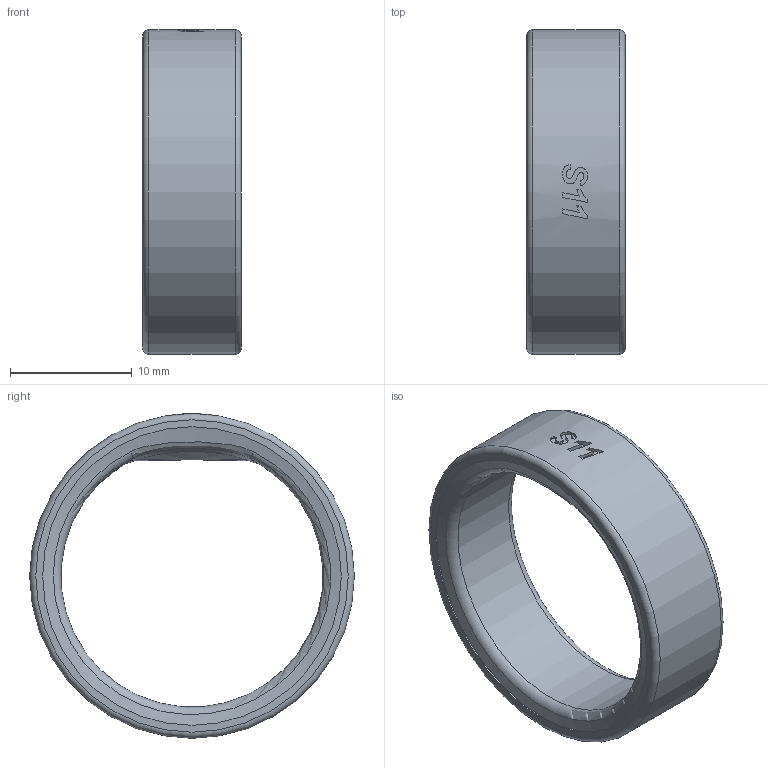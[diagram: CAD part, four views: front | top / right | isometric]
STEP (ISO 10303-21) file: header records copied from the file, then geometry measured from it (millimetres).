
FILE_DESCRIPTION(/* description */ (''),/* implementation_level */ '2;1');
FILE_NAME(/* name */ 'Size 11_Sizing Kit v4.step',/* time_stamp */ '2024-05-07T15:29:07+05:30',/* author */ (''),/* organization */ (''),/* preprocessor_version */ 'ST-DEVELOPER v20',/* originating_system */ 'Autodesk Translation Framework v12.20.1.177',/* authorisation */ '');
FILE_SCHEMA (('AUTOMOTIVE_DESIGN { 1 0 10303 214 3 1 1 }'));
Length unit declared in the file: millimetre
Products named in the file (2): Size 11_Sizing Kit; S11 v7
Assembly tree (1 placements, depth 2):
  Size 11_Sizing Kit
    S11 v7
Bounding box: 8.1 x 26.69 x 26.69 mm (x, y, z)
Volume: 1510.2 mm3; surface area: 1850.6 mm2
Topology: 1 solids, 3 shells, 78 faces, 197 edges, 127 vertices
Faces by surface type: bspline 43, plane 21, cylinder 8, torus 4, cone 2
Full cylindrical faces by diameter (mm): 24.55 x2, 24.578 x2, 26.207 x2, 26.686 x1
Entity records: 4207 total; most frequent: CARTESIAN_POINT 2514, ORIENTED_EDGE 394, DIRECTION 240, EDGE_CURVE 197, VERTEX_POINT 127, AXIS2_PLACEMENT_3D 87, EDGE_LOOP 86, B_SPLINE_CURVE_WITH_KNOTS 82
